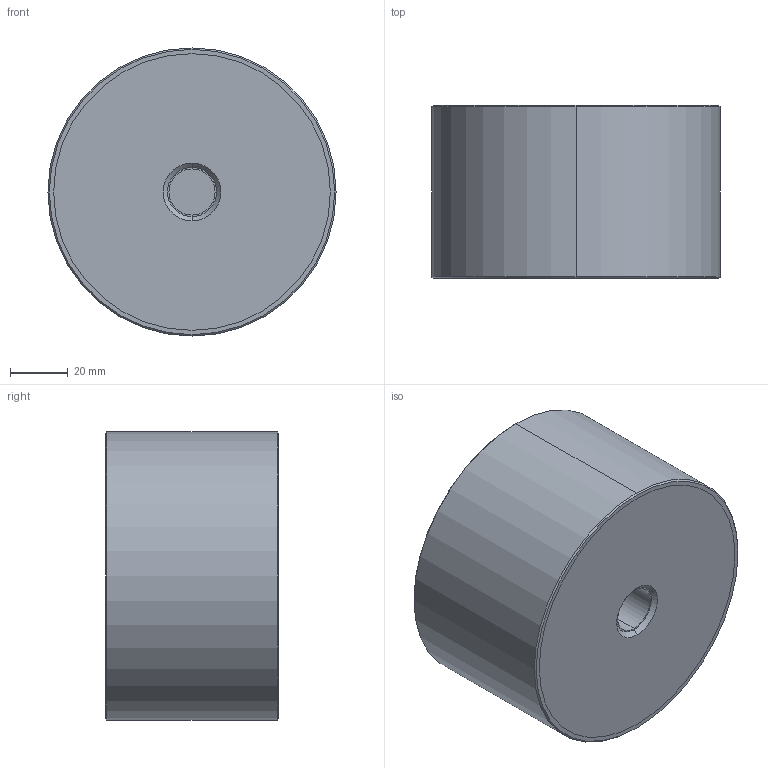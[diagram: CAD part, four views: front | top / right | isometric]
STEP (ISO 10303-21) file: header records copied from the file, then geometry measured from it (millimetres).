
FILE_DESCRIPTION (( 'STEP AP203' ), '1' );
FILE_NAME ('61080.W0903.step', '2018-07-16T20:47:28', ( '' ), ( '' ), 'SwSTEP 2.0', 'SolidWorks 2017', '' );
FILE_SCHEMA (( 'CONFIG_CONTROL_DESIGN' ));
Length unit declared in the file: millimetre
Products named in the file (4): Part2_61080.W0903; Part3_61080.W0903; 61080.W0903; Part1_61080.W0903
Assembly tree (3 placements, depth 2):
  61080.W0903
    Part1_61080.W0903
    Part2_61080.W0903
    Part3_61080.W0903
Bounding box: 100 x 60 x 100 mm (x, y, z)
Volume: 464521.6 mm3; surface area: 65757.3 mm2
Topology: 3 solids, 3 shells, 32 faces, 62 edges, 40 vertices
Faces by surface type: cylinder 14, plane 10, cone 8
Entity records: 1256 total; most frequent: DIRECTION 178, CARTESIAN_POINT 140, ORIENTED_EDGE 124, AXIS2_PLACEMENT_3D 78, EDGE_CURVE 62, CIRCLE 40, EDGE_LOOP 40, VERTEX_POINT 40
